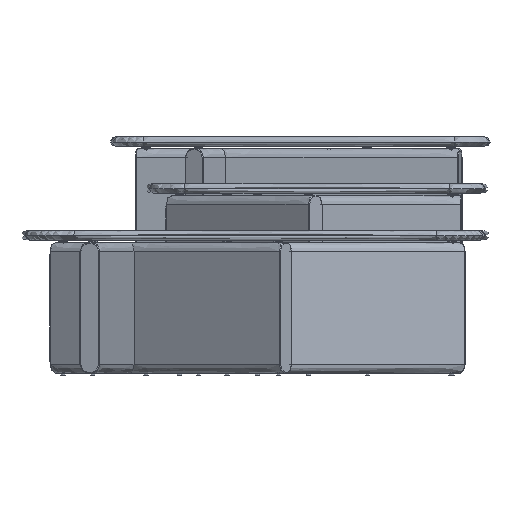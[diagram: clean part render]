
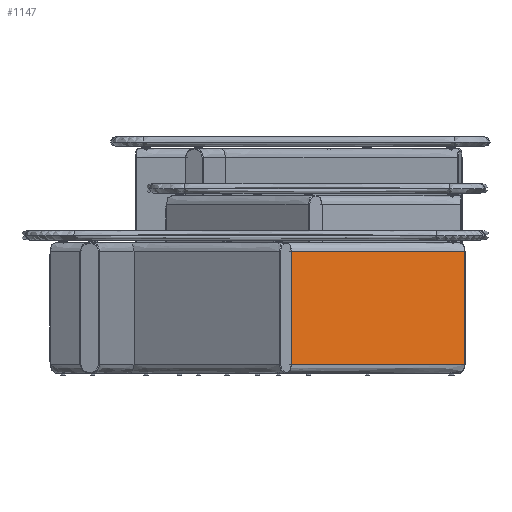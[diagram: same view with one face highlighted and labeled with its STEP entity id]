
A CAD part, left-side view. The second image highlights one B-rep face of the part: STEP entity #1147.
In plain terms, the highlighted planar face has unit normal (-0.829, -0.559, 0).
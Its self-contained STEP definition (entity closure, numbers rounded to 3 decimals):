
#1147=ADVANCED_FACE('',(#2594),#21834,.T.);
#2594=FACE_OUTER_BOUND('',#4056,.T.);
#4056=EDGE_LOOP('',(#7443,#7444,#7445,#7446));
#7443=ORIENTED_EDGE('',*,*,#13434,.T.);
#7444=ORIENTED_EDGE('',*,*,#13435,.T.);
#7445=ORIENTED_EDGE('',*,*,#13430,.F.);
#7446=ORIENTED_EDGE('',*,*,#13436,.T.);
#13430=EDGE_CURVE('',#20208,#20209,#16282,.T.);
#13434=EDGE_CURVE('',#20210,#20211,#16285,.T.);
#13435=EDGE_CURVE('',#20211,#20209,#16286,.T.);
#13436=EDGE_CURVE('',#20208,#20210,#16287,.T.);
#16282=B_SPLINE_CURVE_WITH_KNOTS('',1,(#44891,#44892),.UNSPECIFIED.,.F.,
 .F.,(2,2),(0.,550.262),.UNSPECIFIED.);
#16285=B_SPLINE_CURVE_WITH_KNOTS('',1,(#44900,#44901),.UNSPECIFIED.,.F.,
 .F.,(2,2),(0.,550.262),.UNSPECIFIED.);
#16286=B_SPLINE_CURVE_WITH_KNOTS('',1,(#44902,#44903),.UNSPECIFIED.,.F.,
 .F.,(2,2),(0.,241.),.UNSPECIFIED.);
#16287=B_SPLINE_CURVE_WITH_KNOTS('',1,(#44904,#44905),.UNSPECIFIED.,.F.,
 .F.,(2,2),(0.,241.),.UNSPECIFIED.);
#20208=VERTEX_POINT('',#44858);
#20209=VERTEX_POINT('',#44859);
#20210=VERTEX_POINT('',#44860);
#20211=VERTEX_POINT('',#44861);
#21834=PLANE('',#23301);
#23301=AXIS2_PLACEMENT_3D('',#44365,#23606,$);
#23606=DIRECTION('',(-0.829,-0.559,0.));
#44365=CARTESIAN_POINT('',(-3276.214,7.347,-244.66));
#44858=CARTESIAN_POINT('',(-3245.397,-38.341,20.5));
#44859=CARTESIAN_POINT('',(-2937.694,-494.529,20.5));
#44860=CARTESIAN_POINT('',(-3245.397,-38.341,-220.5));
#44861=CARTESIAN_POINT('',(-2937.694,-494.529,-220.5));
#44891=CARTESIAN_POINT('',(-3245.397,-38.341,20.5));
#44892=CARTESIAN_POINT('',(-2937.694,-494.529,20.5));
#44900=CARTESIAN_POINT('',(-3245.397,-38.341,-220.5));
#44901=CARTESIAN_POINT('',(-2937.694,-494.529,-220.5));
#44902=CARTESIAN_POINT('',(-2937.694,-494.529,-220.5));
#44903=CARTESIAN_POINT('',(-2937.694,-494.529,20.5));
#44904=CARTESIAN_POINT('',(-3245.397,-38.341,20.5));
#44905=CARTESIAN_POINT('',(-3245.397,-38.341,-220.5));
